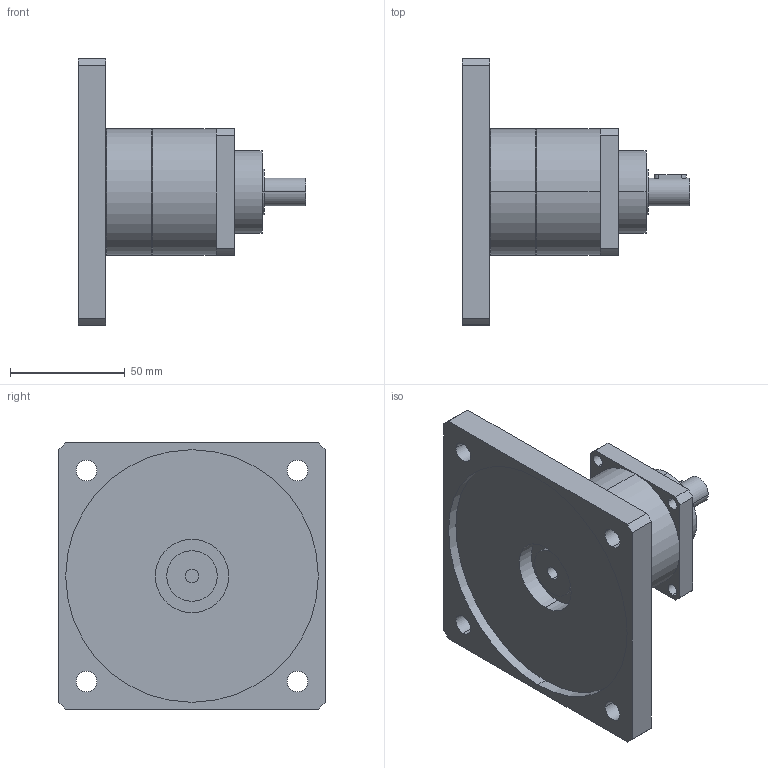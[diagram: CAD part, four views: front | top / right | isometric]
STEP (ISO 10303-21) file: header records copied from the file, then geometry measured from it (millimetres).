
FILE_DESCRIPTION(('CoCreate Modeling STEP Export'),'2;1');
FILE_NAME('GPT55_ig-3-4-5-7-10_12_B5A_6_P09.stp','2014-08-25T14:32:40',(''),(''),'CoCreate Modeling STEP processor for AP214 (Solid Model)','CoCreate Modeling 16.00C 25-Feb-2009 (C) Parametric Technology GmbH','');
FILE_SCHEMA(('AUTOMOTIVE_DESIGN { 1 0 10303 214 1 1 1 1 }'));
Length unit declared in the file: millimetre
Products named in the file (2): GPT55_ig-3-4-5-7-10_12_B5A_6_P09
Assembly tree (1 placements, depth 2):
  GPT55_ig-3-4-5-7-10_12_B5A_6_P09
    GPT55_ig-3-4-5-7-10_12_B5A_6_P09
Bounding box: 99 x 116 x 116 mm (x, y, z)
Volume: 261784.1 mm3; surface area: 50224.5 mm2
Topology: 1 solids, 1 shells, 77 faces, 204 edges, 139 vertices
Faces by surface type: cylinder 46, plane 27, cone 4
Entity records: 2515 total; most frequent: CARTESIAN_POINT 710, ORIENTED_EDGE 408, DIRECTION 318, EDGE_CURVE 204, VERTEX_POINT 139, AXIS2_PLACEMENT_3D 117, EDGE_LOOP 103, VECTOR 84
